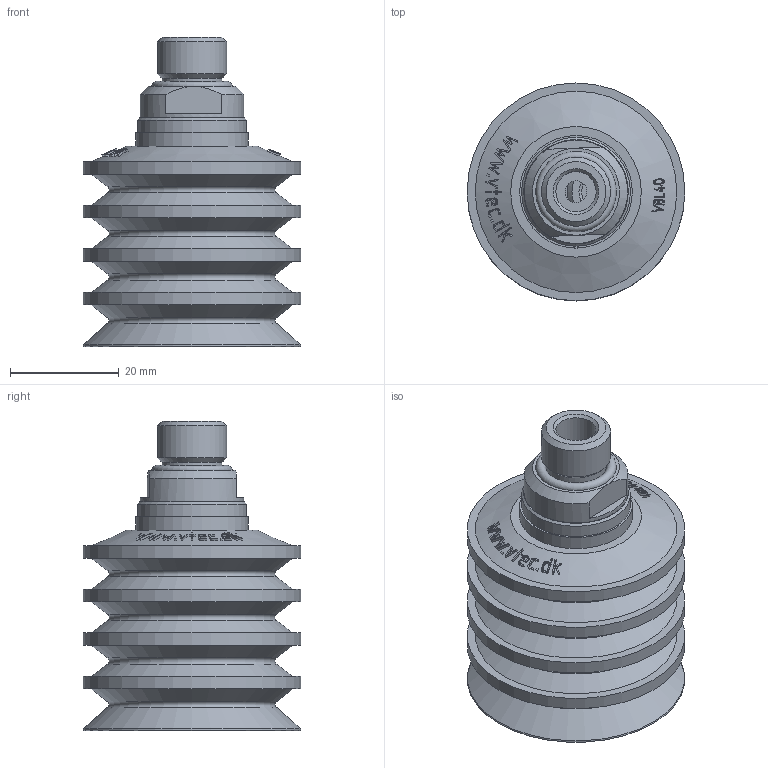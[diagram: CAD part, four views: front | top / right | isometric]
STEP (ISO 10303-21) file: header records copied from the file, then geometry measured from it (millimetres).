
FILE_DESCRIPTION( ( 'STEP AP203' ), '1' );
FILE_NAME( 'C:/撲啗紫賊-02/3D-蘋驍煎斜/Vacuum Pad/VBL series/VBL40-14M.stp', '2006-04-24T11:50:42', ( ' ' ), ( ' ' ), 'XStep 1.0', ' ', ' ' );
FILE_SCHEMA( ( 'CONFIG_CONTROL_DESIGN) ( )' ) );
Length unit declared in the file: metre
Products named in the file (3): Assem1; 1; 2
Bounding box: 40 x 40 x 56.8 mm (x, y, z)
Volume: 21130.3 mm3; surface area: 34190.7 mm2
Topology: 4 solids, 4 shells, 486 faces, 1128 edges, 734 vertices
Faces by surface type: bspline 276, cone 98, plane 60, cylinder 40, torus 12
Full cylindrical faces by diameter (mm): 4 x2, 6.2 x2, 6.5 x2, 7 x2, 7.4 x2, 7.9 x2, 8 x4, 9 x2, 10 x2, 11 x4, 12.7 x2, 19 x2, 20 x2, 20.679 x2, 40 x8
Entity records: 11223 total; most frequent: CARTESIAN_POINT 6785, ORIENTED_EDGE 1010, EDGE_CURVE 505, DIRECTION 467, VERTEX_POINT 363, EDGE_LOOP 344, B_SPLINE_CURVE_WITH_KNOTS 337, FACE_OUTER_BOUND 271
